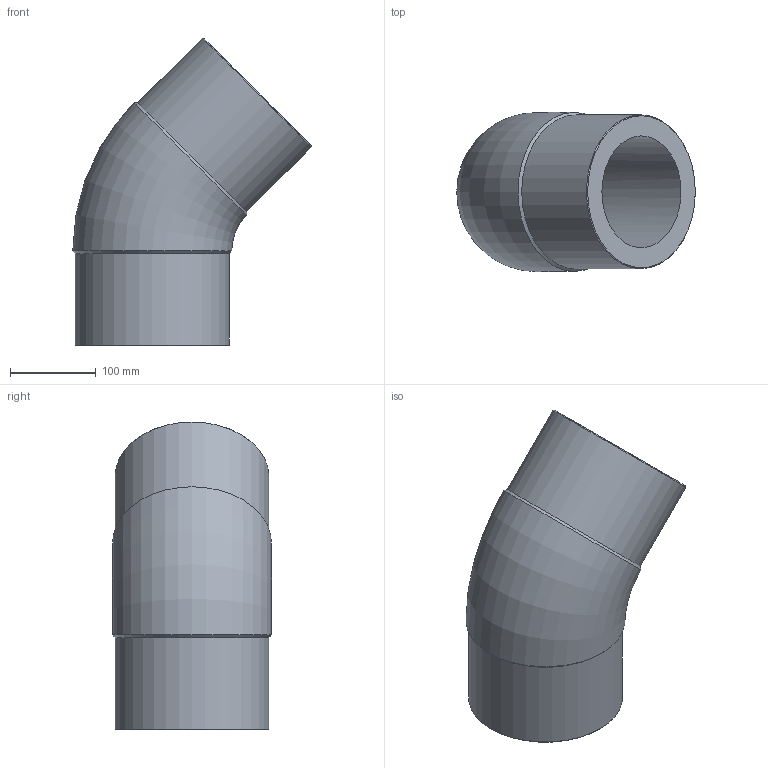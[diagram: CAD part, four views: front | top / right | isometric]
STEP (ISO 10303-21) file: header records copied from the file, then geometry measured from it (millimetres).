
FILE_DESCRIPTION(/* description */ ('Unknown'),/* implementation_level */ '2;1');
FILE_NAME(/* name */ 'G4P180H',/* time_stamp */ '2022-01-21T10:16:55+01:00',/* author */ ('Unknown'),/* organization */ ('Unknown'),/* preprocessor_version */ 'ST-DEVELOPER v18.1',/* originating_system */ 'Solid Edge',/* authorisation */ 'Unknown');
FILE_SCHEMA (('AUTOMOTIVE_DESIGN {1 0 10303 214 3 1 1}'));
Length unit declared in the file: millimetre
Products named in the file (1): G4P180H
Bounding box: 278.97 x 186 x 359.97 mm (x, y, z)
Volume: 4340539 mm3; surface area: 360471.6 mm2
Topology: 1 solids, 1 shells, 12 faces, 30 edges, 20 vertices
Faces by surface type: cone 4, cylinder 4, plane 2, torus 2
Full cylindrical faces by diameter (mm): 130.8 x2, 180 x2
Entity records: 328 total; most frequent: CARTESIAN_POINT 62, DIRECTION 52, ORIENTED_EDGE 34, AXIS2_PLACEMENT_3D 26, EDGE_LOOP 23, FACE_BOUND 23, EDGE_CURVE 17, VERTEX_POINT 16
